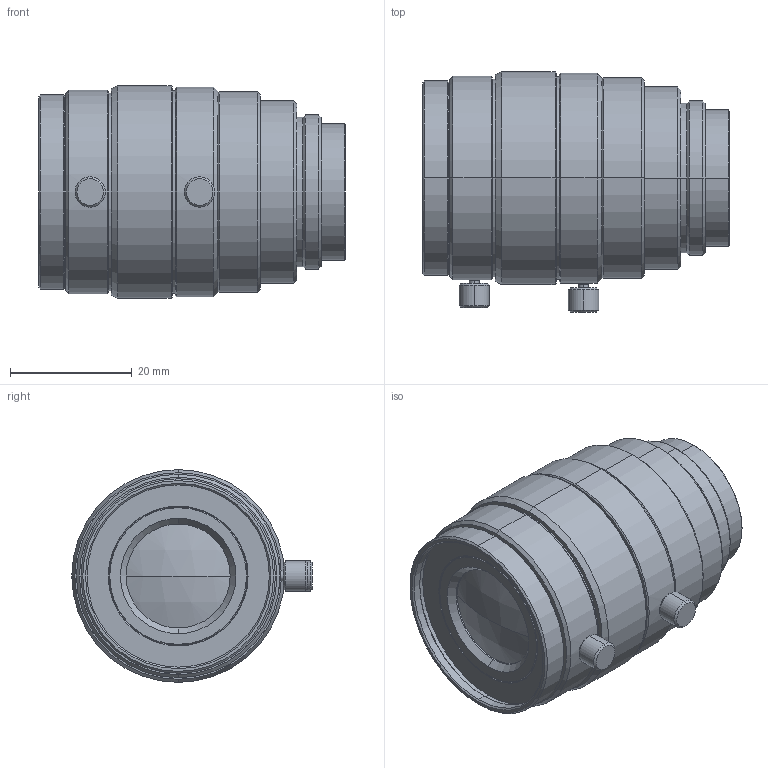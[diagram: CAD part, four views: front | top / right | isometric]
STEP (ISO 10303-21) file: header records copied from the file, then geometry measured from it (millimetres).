
FILE_DESCRIPTION (( 'STEP AP203' ), '1' );
FILE_NAME ('VS-H1620-IRC.STEP', '2022-06-17T06:53:30', ( '' ), ( '' ), 'SwSTEP 2.0', 'SolidWorks 2021', '' );
FILE_SCHEMA (( 'CONFIG_CONTROL_DESIGN' ));
Length unit declared in the file: millimetre
Products named in the file (1): VS-H1620-IRC
Bounding box: 50.5 x 39.55 x 35 mm (x, y, z)
Volume: 38140 mm3; surface area: 7763.3 mm2
Topology: 1 solids, 1 shells, 120 faces, 240 edges, 141 vertices
Faces by surface type: cone 58, cylinder 40, plane 20, sphere 2
Entity records: 3239 total; most frequent: DIRECTION 616, CARTESIAN_POINT 566, ORIENTED_EDGE 480, AXIS2_PLACEMENT_3D 259, EDGE_CURVE 240, VERTEX_POINT 141, EDGE_LOOP 139, CIRCLE 138
